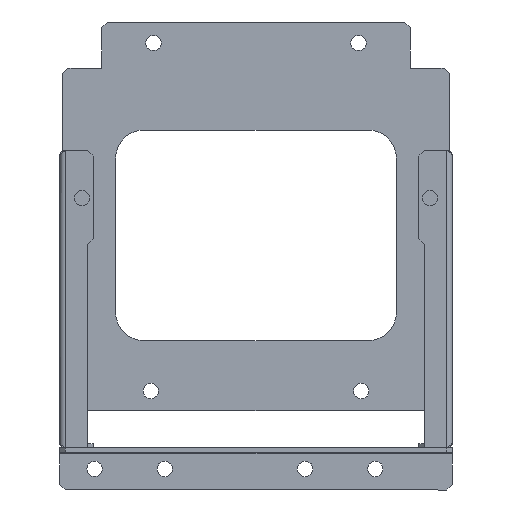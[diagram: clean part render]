
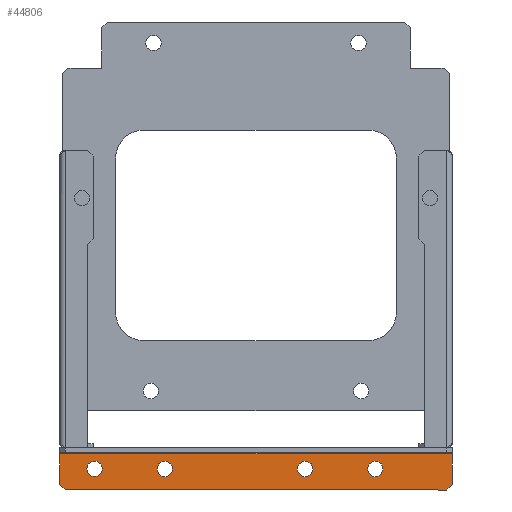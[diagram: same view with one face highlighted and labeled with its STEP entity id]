
A CAD part, left-side view. The second image highlights one B-rep face of the part: STEP entity #44806.
In plain terms, the highlighted planar face has unit normal (-1, 0, 0) as drawn and (1, 0, 0) by its records, which use the part's own axes.
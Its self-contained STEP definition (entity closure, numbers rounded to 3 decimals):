
#43511=CARTESIAN_POINT(' ',(-97.5,-17.5,8.75));
#43512=VERTEX_POINT(' ',#43511);
#43526=CARTESIAN_POINT(' ',(-97.5,-17.5,6.));
#43531=DIRECTION(' ',(1.,0.,0.));
#43536=DIRECTION(' ',(0.,0.,1.));
#43541=AXIS2_PLACEMENT_3D(' ',#43526,#43531,#43536);
#43546=CIRCLE('',#43541,2.75);
#43551=CARTESIAN_POINT(' ',(-97.5,-17.5,3.25));
#43552=VERTEX_POINT(' ',#43551);
#43556=EDGE_CURVE(' ',#43512,#43552,#43546,.T.);
#44221=CARTESIAN_POINT(' ',(-97.5,-17.5,6.));
#44226=DIRECTION(' ',(1.,0.,0.));
#44231=DIRECTION(' ',(0.,0.,-1.));
#44236=AXIS2_PLACEMENT_3D(' ',#44221,#44226,#44231);
#44241=CIRCLE('',#44236,2.75);
#44246=EDGE_CURVE(' ',#43552,#43512,#44241,.T.);
#44271=DIRECTION(' ',(1.,0.,0.));
#44276=CARTESIAN_POINT(' ',(-97.5,-70.,13.5));
#44281=DIRECTION(' ',(0.,0.,-1.));
#44286=AXIS2_PLACEMENT_3D(' ',#44276,#44271,#44281);
#44291=PLANE('NONE',#44286);
#44296=CARTESIAN_POINT(' ',(-97.5,-68.,13.5));
#44301=DIRECTION(' ',(0.,1.,0.));
#44306=VECTOR(' ',#44301,1.);
#44311=LINE('',#44296,#44306);
#44316=CARTESIAN_POINT(' ',(-97.5,-68.,13.5));
#44317=VERTEX_POINT(' ',#44316);
#44321=CARTESIAN_POINT(' ',(-97.5,68.,13.5));
#44322=VERTEX_POINT(' ',#44321);
#44326=EDGE_CURVE(' ',#44317,#44322,#44311,.T.);
#44331=ORIENTED_EDGE(' ',*,*,#44326,.F.);
#44336=CARTESIAN_POINT(' ',(-97.5,-68.,13.5));
#44341=DIRECTION(' ',(0.,-0.707,-0.707));
#44346=VECTOR(' ',#44341,1.);
#44351=LINE('',#44336,#44346);
#44356=CARTESIAN_POINT(' ',(-97.5,-70.,11.5));
#44357=VERTEX_POINT(' ',#44356);
#44361=EDGE_CURVE(' ',#44317,#44357,#44351,.T.);
#44366=ORIENTED_EDGE(' ',*,*,#44361,.T.);
#44371=CARTESIAN_POINT(' ',(-97.5,-70.,0.6));
#44376=DIRECTION(' ',(0.,0.,1.));
#44381=VECTOR(' ',#44376,1.);
#44386=LINE('',#44371,#44381);
#44391=CARTESIAN_POINT(' ',(-97.5,-70.,0.6));
#44392=VERTEX_POINT(' ',#44391);
#44396=EDGE_CURVE(' ',#44392,#44357,#44386,.T.);
#44401=ORIENTED_EDGE(' ',*,*,#44396,.F.);
#44406=CARTESIAN_POINT(' ',(-97.5,70.,0.6));
#44411=DIRECTION(' ',(0.,-1.,0.));
#44416=VECTOR(' ',#44411,1.);
#44421=LINE('',#44406,#44416);
#44426=CARTESIAN_POINT(' ',(-97.5,70.,0.6));
#44427=VERTEX_POINT(' ',#44426);
#44431=EDGE_CURVE(' ',#44427,#44392,#44421,.T.);
#44436=ORIENTED_EDGE(' ',*,*,#44431,.F.);
#44441=CARTESIAN_POINT(' ',(-97.5,70.,11.5));
#44446=DIRECTION(' ',(0.,0.,-1.));
#44451=VECTOR(' ',#44446,1.);
#44456=LINE('',#44441,#44451);
#44461=CARTESIAN_POINT(' ',(-97.5,70.,11.5));
#44462=VERTEX_POINT(' ',#44461);
#44466=EDGE_CURVE(' ',#44462,#44427,#44456,.T.);
#44471=ORIENTED_EDGE(' ',*,*,#44466,.F.);
#44476=CARTESIAN_POINT(' ',(-97.5,70.,11.5));
#44481=DIRECTION(' ',(0.,-0.707,0.707));
#44486=VECTOR(' ',#44481,1.);
#44491=LINE('',#44476,#44486);
#44496=EDGE_CURVE(' ',#44462,#44322,#44491,.T.);
#44501=ORIENTED_EDGE(' ',*,*,#44496,.T.);
#44506=EDGE_LOOP(' ',(#44331,#44366,#44401,#44436,#44471,#44501));
#44511=FACE_OUTER_BOUND(' ',#44506,.T.);
#44516=ORIENTED_EDGE(' ',*,*,#44246,.F.);
#44521=ORIENTED_EDGE(' ',*,*,#43556,.F.);
#44526=EDGE_LOOP(' ',(#44516,#44521));
#44531=FACE_BOUND(' ',#44526,.T.);
#44536=CARTESIAN_POINT(' ',(-97.5,57.5,6.));
#44541=DIRECTION(' ',(-1.,0.,0.));
#44546=DIRECTION(' ',(0.,0.,1.));
#44551=AXIS2_PLACEMENT_3D(' ',#44536,#44541,#44546);
#44556=CIRCLE('',#44551,2.75);
#44561=CARTESIAN_POINT(' ',(-97.5,57.5,8.75));
#44562=VERTEX_POINT(' ',#44561);
#44566=CARTESIAN_POINT(' ',(-97.5,57.5,3.25));
#44567=VERTEX_POINT(' ',#44566);
#44571=EDGE_CURVE(' ',#44562,#44567,#44556,.T.);
#44576=ORIENTED_EDGE(' ',*,*,#44571,.T.);
#44581=CARTESIAN_POINT(' ',(-97.5,57.5,6.));
#44586=DIRECTION(' ',(-1.,0.,0.));
#44591=DIRECTION(' ',(0.,0.,-1.));
#44596=AXIS2_PLACEMENT_3D(' ',#44581,#44586,#44591);
#44601=CIRCLE('',#44596,2.75);
#44606=EDGE_CURVE(' ',#44567,#44562,#44601,.T.);
#44611=ORIENTED_EDGE(' ',*,*,#44606,.T.);
#44616=EDGE_LOOP(' ',(#44576,#44611));
#44621=FACE_BOUND(' ',#44616,.T.);
#44626=CARTESIAN_POINT(' ',(-97.5,-42.5,6.));
#44631=DIRECTION(' ',(-1.,0.,0.));
#44636=DIRECTION(' ',(0.,0.,1.));
#44641=AXIS2_PLACEMENT_3D(' ',#44626,#44631,#44636);
#44646=CIRCLE('',#44641,2.75);
#44651=CARTESIAN_POINT(' ',(-97.5,-42.5,8.75));
#44652=VERTEX_POINT(' ',#44651);
#44656=CARTESIAN_POINT(' ',(-97.5,-42.5,3.25));
#44657=VERTEX_POINT(' ',#44656);
#44661=EDGE_CURVE(' ',#44652,#44657,#44646,.T.);
#44666=ORIENTED_EDGE(' ',*,*,#44661,.T.);
#44671=CARTESIAN_POINT(' ',(-97.5,-42.5,6.));
#44676=DIRECTION(' ',(-1.,0.,0.));
#44681=DIRECTION(' ',(0.,0.,-1.));
#44686=AXIS2_PLACEMENT_3D(' ',#44671,#44676,#44681);
#44691=CIRCLE('',#44686,2.75);
#44696=EDGE_CURVE(' ',#44657,#44652,#44691,.T.);
#44701=ORIENTED_EDGE(' ',*,*,#44696,.T.);
#44706=EDGE_LOOP(' ',(#44666,#44701));
#44711=FACE_BOUND(' ',#44706,.T.);
#44716=CARTESIAN_POINT(' ',(-97.5,32.5,6.));
#44721=DIRECTION(' ',(1.,0.,0.));
#44726=DIRECTION(' ',(0.,0.,-1.));
#44731=AXIS2_PLACEMENT_3D(' ',#44716,#44721,#44726);
#44736=CIRCLE('',#44731,2.75);
#44741=CARTESIAN_POINT(' ',(-97.5,32.5,3.25));
#44742=VERTEX_POINT(' ',#44741);
#44746=CARTESIAN_POINT(' ',(-97.5,32.5,8.75));
#44747=VERTEX_POINT(' ',#44746);
#44751=EDGE_CURVE(' ',#44742,#44747,#44736,.T.);
#44756=ORIENTED_EDGE(' ',*,*,#44751,.F.);
#44761=CARTESIAN_POINT(' ',(-97.5,32.5,6.));
#44766=DIRECTION(' ',(1.,0.,0.));
#44771=DIRECTION(' ',(0.,0.,1.));
#44776=AXIS2_PLACEMENT_3D(' ',#44761,#44766,#44771);
#44781=CIRCLE('',#44776,2.75);
#44786=EDGE_CURVE(' ',#44747,#44742,#44781,.T.);
#44791=ORIENTED_EDGE(' ',*,*,#44786,.F.);
#44796=EDGE_LOOP(' ',(#44756,#44791));
#44801=FACE_BOUND(' ',#44796,.T.);
#44806=ADVANCED_FACE('NONE',(#44511,#44531,#44621,#44711,#44801),#44291,.T.);
